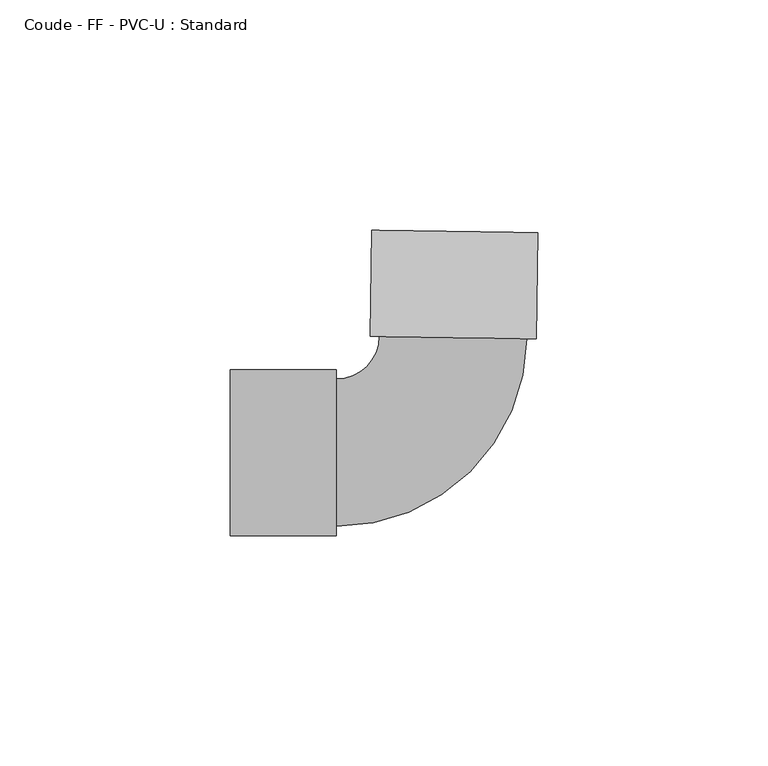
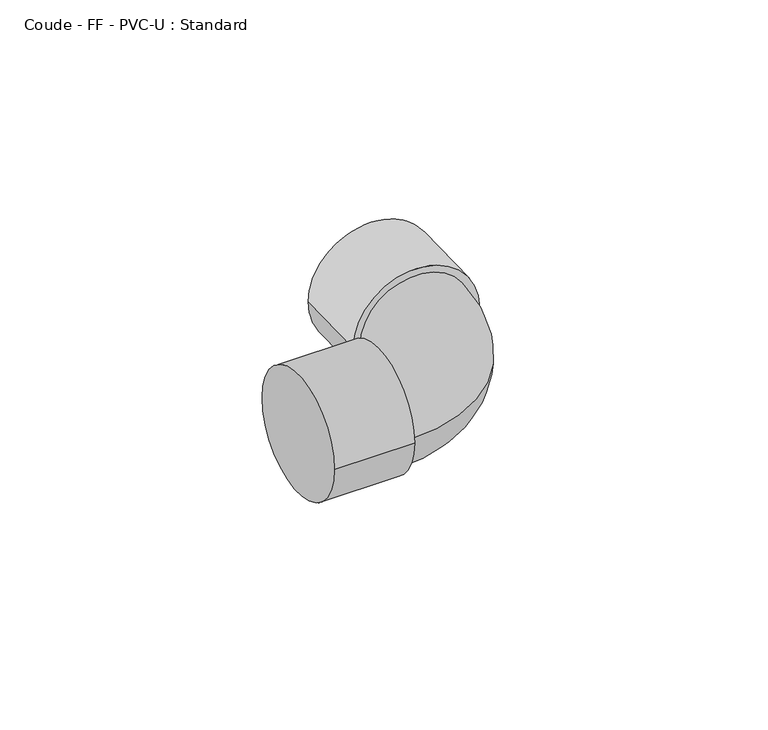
"""IFC4 building model written with IfcOpenShell, lengths in millimetres: pipe fitting geometry, Coude - FF - PVC-U : Standard."""

from ifc_helpers import new_model, si_unit, point, frame, origin, place, context, project, spatial, circle_curve, ellipse_curve, trimmed, source, transform, mapped, element, save
from ifc_brep_helpers import plane_surface, cylinder_surface, revolved_surface, advanced_brep


def coude_ff_pvc_u_standard_4c98eaa9(model_context):
    return source(origin(), model_context, "Body", "AdvancedBrep", [
        advanced_brep(
        [(-48.0, -18.0, 0.0), (-48.0, 18.0, 0.0), (-25.0, -18.0, 0.0), (-25.0, 18.0, 0.0), (-25.0, -16.0, 0.0), (-25.0, 16.0, 0.0), (-15.6232425, 25.237161, 0.0), (16.3731581, 24.757215, 0.0), (18.3729332, 24.7272183, 0.0), (-17.6230175, 25.2671576, 0.0), (18.7178944, 47.7246313, 0.0), (-17.2780563, 48.2645705, 0.0)],
        [
            (0, 1, circle_curve(frame((-48.0, 0.0, 0.0), z_axis=(-1.0, 0.0, 0.0), x_axis=(0.0, 1.0, 0.0)), 18.0)),
            (1, 0, circle_curve(frame((-48.0, 0.0, 0.0), z_axis=(-1.0, 0.0, 0.0), x_axis=(0.0, 1.0, 0.0)), 18.0)),
            (2, 3, circle_curve(frame((-25.0, 0.0, 0.0), z_axis=(1.0, 0.0, 0.0), x_axis=(0.0, 1.0, 0.0)), 18.0)),
            (3, 2, circle_curve(frame((-25.0, 0.0, 0.0), z_axis=(1.0, 0.0, 0.0), x_axis=(0.0, 1.0, 0.0)), 18.0)),
            (4, 5, circle_curve(frame((-25.0, 0.0, 0.0), z_axis=(-1.0, 0.0, 0.0), x_axis=(0.0, 1.0, 0.0)), 16.0)),
            (5, 4, circle_curve(frame((-25.0, 0.0, 0.0), z_axis=(-1.0, 0.0, 0.0), x_axis=(0.0, 1.0, 0.0)), 16.0)),
            (0, 2),
            (3, 1),
            (6, 5, circle_curve(frame((-25.0, 25.3778123, 0.0), z_axis=(0.0, 0.0, -1.0), x_axis=(0.0, -1.0, 0.0)), 9.3778123)),
            (4, 7, circle_curve(frame((-25.0, 25.3778123, 0.0), z_axis=(0.0, 0.0, 1.0), x_axis=(0.0, -1.0, 0.0)), 41.3778123)),
            (7, 6, circle_curve(frame((0.3749578, 24.997188, 0.0), z_axis=(-0.01499831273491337, -0.9998875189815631, 0.0), x_axis=(-0.9998875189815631, 0.01499831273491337, 0.0)), 16.0)),
            (6, 7, circle_curve(frame((0.3749578, 24.997188, 0.0), z_axis=(-0.01499831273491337, -0.9998875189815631, 0.0), x_axis=(-0.9998875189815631, 0.01499831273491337, 0.0)), 16.0)),
            (8, 9, circle_curve(frame((0.3749578, 24.997188, 0.0), z_axis=(-0.014998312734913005, -0.9998875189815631, 0.0), x_axis=(-0.9998875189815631, 0.014998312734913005, 0.0)), 18.0)),
            (9, 8, circle_curve(frame((0.3749578, 24.997188, 0.0), z_axis=(-0.014998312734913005, -0.9998875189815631, 0.0), x_axis=(-0.9998875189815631, 0.014998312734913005, 0.0)), 18.0)),
            (10, 11, circle_curve(frame((0.719919, 47.9946009, 0.0), z_axis=(0.014998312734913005, 0.9998875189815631, 0.0), x_axis=(-0.9998875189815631, 0.014998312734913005, 0.0)), 18.0)),
            (11, 10, circle_curve(frame((0.719919, 47.9946009, 0.0), z_axis=(0.014998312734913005, 0.9998875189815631, 0.0), x_axis=(-0.9998875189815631, 0.014998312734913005, 0.0)), 18.0)),
            (8, 10),
            (11, 9),
        ],
        [
            plane_surface(frame((-48.0, 0.0, 0.0), z_axis=(-1.0, 0.0, 0.0), x_axis=(0.0, 0.0, 1.0))),
            plane_surface(frame((-25.0, 0.0, 0.0), z_axis=(1.0, 0.0, 0.0), x_axis=(0.0, 0.0, 1.0))),
            cylinder_surface(frame((-48.0, 0.0, 0.0), z_axis=(-1.0, 0.0, 0.0), x_axis=(0.0, 1.0, 0.0)), 18.0),
            revolved_surface(trimmed(ellipse_curve(frame((-25.0, 0.0, 0.0), z_axis=(-1.0, 0.0, 0.0), x_axis=(0.0, 1.0, 0.0)), 16.0, 16.0), [point((-25.0, -16.0, 0.0))], [point((-25.0, 16.0, 0.0))], True, "CARTESIAN"), (-25.0, 25.3778123, 0.0), (0.0, 0.0, 1.0)),
            revolved_surface(trimmed(ellipse_curve(frame((-25.0, 0.0, 0.0), z_axis=(-1.0, 0.0, 0.0), x_axis=(0.0, 1.0, 0.0)), 16.0, 16.0), [point((-25.0, 16.0, 0.0))], [point((-25.0, -16.0, 0.0))], True, "CARTESIAN"), (-25.0, 25.3778123, 0.0), (0.0, 0.0, 1.0)),
            plane_surface(frame((0.3749578, 24.997188, 0.0), z_axis=(-0.014998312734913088, -0.9998875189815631, 0.0), x_axis=(0.0, 0.0, 1.0))),
            plane_surface(frame((0.719919, 47.9946009, 0.0), z_axis=(0.014998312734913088, 0.9998875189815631, 0.0), x_axis=(0.0, 0.0, 1.0))),
            cylinder_surface(frame((0.3749578, 24.997188, 0.0), z_axis=(-0.014998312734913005, -0.9998875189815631, 0.0), x_axis=(-0.9998875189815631, 0.014998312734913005, 0.0)), 18.0),
        ],
        [
            (0, [[1, 2]]),
            (1, [[3, 4], [5, 6]]),
            (2, [[-1, 7, -4, 8]]),
            (2, [[-2, -8, -3, -7]]),
            (3, [[9, -5, 10, 11]]),
            (4, [[-9, 12, -10, -6]]),
            (5, [[13, 14], [-11, -12]]),
            (6, [[15, 16]]),
            (7, [[-13, 17, -16, 18]]),
            (7, [[-14, -18, -15, -17]]),
        ],
    ),
    ])


if __name__ == "__main__":
    model = new_model("IFC4")
    model_context = context("Model", 3, world=origin())
    ifc_project = project(units=[si_unit("LENGTHUNIT", "METRE", prefix="MILLI")], contexts=[model_context])
    site = spatial("IfcSite", under=ifc_project)
    building = spatial("IfcBuilding", under=site)
    placement = place(None, origin())
    coude_ff_pvc_u_standard_shape = coude_ff_pvc_u_standard_4c98eaa9(model_context)
    element("IfcPipeFitting", 1, ObjectType="Coude - FF - PVC-U : Standard", at=placement, inside=building, context=model_context, shape_type="MappedRepresentation", body=[
        mapped(coude_ff_pvc_u_standard_shape, transform((0.0, 0.0, 0.0), x_axis=(1.0, 0.0, 0.0), y_axis=(0.0, 1.0, 0.0), z_axis=(0.0, 0.0, 1.0))),
    ])
    save(model, "model.ifc")
